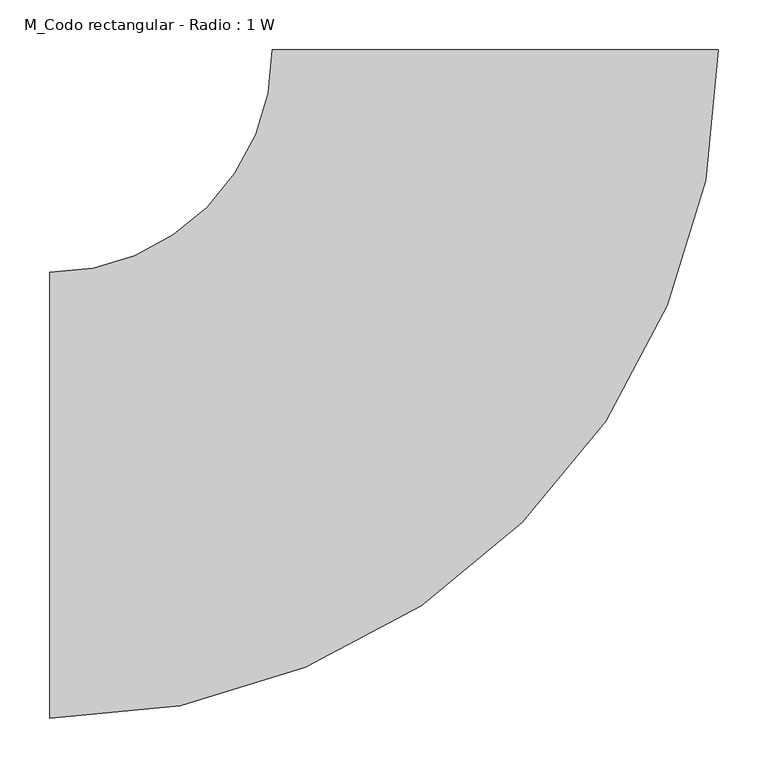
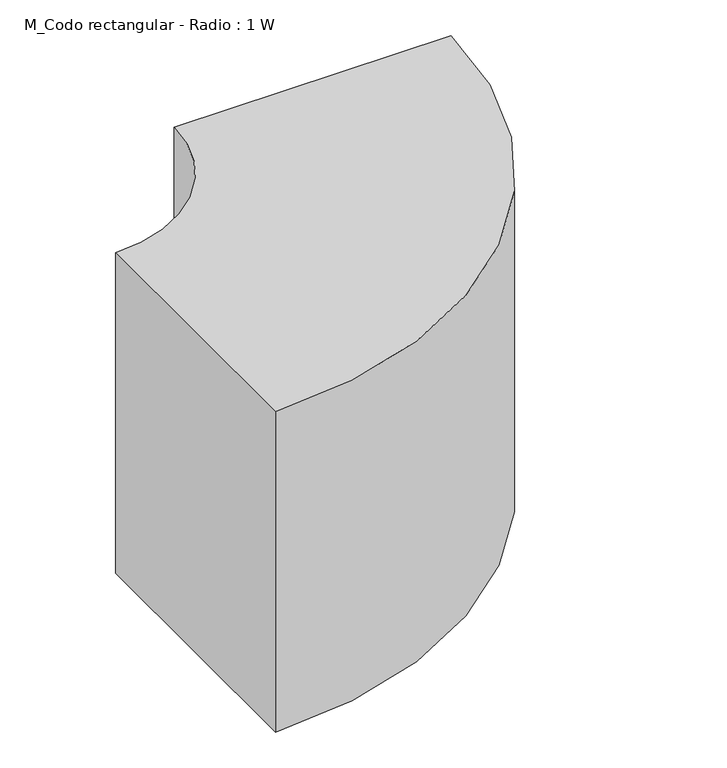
"""IFC4 building model written with IfcOpenShell, lengths in millimetres: duct fitting geometry, M_Codo rectangular - Radio : 1 W."""

import ifcopenshell
import ifcopenshell.guid

model = None  # the IFC model being written
_history = None  # IfcOwnerHistory: only IFC2X3 demands one
_inside = {}  # id of a spatial element -> (the spatial element, [elements in it])
_under = {}  # id of a project, library or spatial element -> (it, [spatial elements below it])
_declared = {}  # id of a project -> (the project, [libraries it declares])
_typed = {}  # id of a type object -> (the type object, [elements of that type])
_made_of = {}  # id of a material, layer set ... -> (it, [elements and type objects made of it])


def new_model(schema):
    """Start an empty IFC model of exactly this schema.

    Asked for "IFC4X3", IfcOpenShell would pick the latest addendum, in which some entities
    have other attributes; the version numbers below select the first issue.
    IFC2X3 requires an IfcOwnerHistory on every rooted entity: one is made here for all.
    """
    global model, _history
    if schema == "IFC4X3":
        model = ifcopenshell.file(schema_version=(4, 3, 0, 0))
    else:
        model = ifcopenshell.file(schema=schema)
    _inside.clear()
    _under.clear()
    _declared.clear()
    _typed.clear()
    _made_of.clear()
    _history = None
    if model.schema == "IFC2X3":
        org = make("IfcOrganization", Name="unknown")
        user = make(
            "IfcPersonAndOrganization",
            ThePerson=make("IfcPerson", FamilyName="unknown"),
            TheOrganization=org,
        )
        app = make(
            "IfcApplication",
            ApplicationDeveloper=org,
            Version="unknown",
            ApplicationFullName="unknown",
            ApplicationIdentifier="unknown",
        )
        _history = make(
            "IfcOwnerHistory",
            OwningUser=user,
            OwningApplication=app,
            ChangeAction="ADDED",
            CreationDate=0,
        )
    return model


def make(cls, **values):
    """One entity of the class cls with the attributes given. An attribute that is None is left unset."""
    return model.create_entity(
        cls, **{name: value for name, value in values.items() if value is not None}
    )


def rooted(cls, **values):
    """An entity with a GlobalId (a new one), such as an element, a storey or a relation."""
    return make(cls, GlobalId=ifcopenshell.guid.new(), OwnerHistory=_history, **values)


def si_unit(unit_type, name, prefix=None):
    """IfcSIUnit, for example si_unit("LENGTHUNIT", "METRE", prefix="MILLI")."""
    return make("IfcSIUnit", UnitType=unit_type, Prefix=prefix, Name=name)


def assignment(units):
    """IfcUnitAssignment: the units of a project."""
    return None if units is None else make("IfcUnitAssignment", Units=units)


def point(xyz):
    """IfcCartesianPoint."""
    return None if xyz is None else make("IfcCartesianPoint", Coordinates=xyz)


def direction(xyz):
    """IfcDirection."""
    return None if xyz is None else make("IfcDirection", DirectionRatios=xyz)


def frame(location, z_axis=None, x_axis=None):
    """IfcAxis2Placement3D, a coordinate frame: its origin and axes. An axis left out is left unset."""
    return make(
        "IfcAxis2Placement3D",
        Location=point(location),
        Axis=direction(z_axis),
        RefDirection=direction(x_axis),
    )


def frame_2d(location, x_axis=None):
    """IfcAxis2Placement2D, a coordinate frame in the plane: its origin and x axis."""
    return make(
        "IfcAxis2Placement2D", Location=point(location), RefDirection=direction(x_axis)
    )


def origin():
    """The frame at (0, 0, 0) with its axes left unset."""
    return frame((0.0, 0.0, 0.0))


def place(relative_to, where):
    """IfcLocalPlacement: puts the frame where relative to a parent placement (None: the world)."""
    return make(
        "IfcLocalPlacement", PlacementRelTo=relative_to, RelativePlacement=where
    )


def context(
    kind, dimensions, precision=None, world=None, true_north=None, identifier=None
):
    """IfcGeometricRepresentationContext, for example the 3D "Model" context."""
    return make(
        "IfcGeometricRepresentationContext",
        ContextIdentifier=identifier,
        ContextType=kind,
        CoordinateSpaceDimension=dimensions,
        Precision=precision,
        WorldCoordinateSystem=world,
        TrueNorth=true_north,
    )


def project(units=None, contexts=None):
    """IfcProject with its units and contexts."""
    return rooted(
        "IfcProject",
        Name="project",
        RepresentationContexts=contexts,
        UnitsInContext=assignment(units),
    )


def spatial(cls, under=None, at=None, **own):
    """A site, building, storey or space (cls), placed at a placement, below another one or the project."""
    s = rooted(cls, ObjectPlacement=at, **own)
    if under is not None:
        _under.setdefault(under.id(), (under, []))[1].append(s)
    return s


def polyline(points):
    """IfcPolyline through the points."""
    return make("IfcPolyline", Points=[point(p) for p in points])


def circle_curve(where, radius):
    """IfcCircle in the frame where."""
    return make("IfcCircle", Position=where, Radius=radius)


def trimmed(basis, trim1, trim2, sense, master):
    """IfcTrimmedCurve: the piece of a basis curve between two trims."""
    return make(
        "IfcTrimmedCurve",
        BasisCurve=basis,
        Trim1=trim1,
        Trim2=trim2,
        SenseAgreement=sense,
        MasterRepresentation=master,
    )


def segment(curve, same_sense, transition):
    """IfcCompositeCurveSegment."""
    return make(
        "IfcCompositeCurveSegment",
        Transition=transition,
        SameSense=same_sense,
        ParentCurve=curve,
    )


def composite_curve(segments, self_intersect=None):
    """IfcCompositeCurve: segments joined end to end."""
    return make("IfcCompositeCurve", Segments=segments, SelfIntersect=self_intersect)


def outline(outer, holes=None, kind="AREA"):
    """IfcArbitraryClosedProfileDef: a profile drawn as a closed curve; with holes, ...WithVoids."""
    if holes is None:
        return make("IfcArbitraryClosedProfileDef", ProfileType=kind, OuterCurve=outer)
    return make(
        "IfcArbitraryProfileDefWithVoids",
        ProfileType=kind,
        OuterCurve=outer,
        InnerCurves=holes,
    )


def extrude(swept, where, along, depth):
    """IfcExtrudedAreaSolid: the profile swept, set in the frame where, extruded along a direction by depth."""
    return make(
        "IfcExtrudedAreaSolid",
        SweptArea=swept,
        Position=where,
        ExtrudedDirection=direction(along),
        Depth=depth,
    )


def shape(context_of_items, identifier, shape_type, items):
    """IfcShapeRepresentation: the items that make up one representation, for example the "Body"."""
    return make(
        "IfcShapeRepresentation",
        ContextOfItems=context_of_items,
        RepresentationIdentifier=identifier,
        RepresentationType=shape_type,
        Items=items,
    )


def source(mapping_origin, context_of_items, identifier, shape_type, items):
    """IfcRepresentationMap: a shape defined once, which mapped items show again and again."""
    return make(
        "IfcRepresentationMap",
        MappingOrigin=mapping_origin,
        MappedRepresentation=shape(context_of_items, identifier, shape_type, items),
    )


def transform(
    local_origin,
    x_axis=None,
    y_axis=None,
    z_axis=None,
    scale=None,
    scale2=None,
    scale3=None,
    uniform=True,
):
    """IfcCartesianTransformationOperator3D, or its non-uniform kind. x_axis, y_axis, z_axis: its Axis1, 2, 3."""
    if uniform:
        return make(
            "IfcCartesianTransformationOperator3D",
            Axis1=direction(x_axis),
            Axis2=direction(y_axis),
            LocalOrigin=point(local_origin),
            Scale=scale,
            Axis3=direction(z_axis),
        )
    return make(
        "IfcCartesianTransformationOperator3DnonUniform",
        Axis1=direction(x_axis),
        Axis2=direction(y_axis),
        LocalOrigin=point(local_origin),
        Scale=scale,
        Axis3=direction(z_axis),
        Scale2=scale2,
        Scale3=scale3,
    )


def mapped(mapping_source, mapping_target):
    """IfcMappedItem: shows the shape of a source again, moved by a transform."""
    return make(
        "IfcMappedItem", MappingSource=mapping_source, MappingTarget=mapping_target
    )


def made_of(thing, what):
    """Note that an element or type object is made of a material, layer set ...; save() writes the relation."""
    if what is not None:
        _made_of.setdefault(what.id(), (what, []))[1].append(thing)
    return thing


def element(
    cls,
    number,
    at=None,
    inside=None,
    cuts=None,
    type_object=None,
    material=None,
    context=None,
    identifier="Body",
    shape_type=None,
    held_by="IfcProductDefinitionShape",
    body=None,
    shapes=None,
    **own,
):
    """One element of the class cls, such as IfcWall. Its Tag is "e" and its number.

    at: its placement. inside: the storey or other place that contains it. cuts: it is an
    opening in that element (IfcRelVoidsElement). A single representation is given by context,
    identifier, shape_type and body (its items); several are given by shapes. held_by: the class
    of the entity that holds the representations. save() writes the other relations.
    """
    e = rooted(cls, Tag="e%d" % number, ObjectPlacement=at, **own)
    if body is not None:
        shapes = [shape(context, identifier, shape_type, body)]
    if shapes is not None:
        e.Representation = make(held_by, Representations=shapes)
    if inside is not None:
        _inside.setdefault(inside.id(), (inside, []))[1].append(e)
    if cuts is not None:
        rooted(
            "IfcRelVoidsElement", RelatingBuildingElement=cuts, RelatedOpeningElement=e
        )
    if type_object is not None:
        _typed.setdefault(type_object.id(), (type_object, []))[1].append(e)
    return made_of(e, material)


def aggregate(whole, parts):
    """IfcRelAggregates: a whole, such as a stair, and the parts it consists of."""
    return rooted("IfcRelAggregates", RelatingObject=whole, RelatedObjects=parts)


def save(model, path):
    """Write the relations noted so far, then the file.

    IfcRelAggregates (storeys below a building ...), IfcRelContainedInSpatialStructure (elements
    in a storey), IfcRelDefinesByType, IfcRelAssociatesMaterial and IfcRelDeclares: one each for
    every whole, place, type object, material and project.
    """
    for whole, parts in _under.values():
        aggregate(whole, parts)
    for where, things in _inside.values():
        rooted(
            "IfcRelContainedInSpatialStructure",
            RelatedElements=things,
            RelatingStructure=where,
        )
    for kind, things in _typed.values():
        rooted("IfcRelDefinesByType", RelatedObjects=things, RelatingType=kind)
    for what, things in _made_of.values():
        rooted("IfcRelAssociatesMaterial", RelatedObjects=things, RelatingMaterial=what)
    for by, libraries in _declared.values():
        rooted("IfcRelDeclares", RelatingContext=by, RelatedDefinitions=libraries)
    model.write(path)


def m_codo_rectangular_radio_1_w_69a41025(model_context):
    return source(origin(), model_context, "Body", "SweptSolid", [
        extrude(outline(composite_curve([segment(trimmed(circle_curve(frame_2d((-450.0, 450.0)), 675.0), [point((225.0, 450.0))], [point((-450.0, -225.0))], False, "CARTESIAN"), True, "CONTINUOUS"), segment(polyline([(-450.0, -225.0), (-450.0, 225.0)]), True, "CONTINUOUS"), segment(trimmed(circle_curve(frame_2d((-450.0, 450.0)), 225.0), [point((-450.0, 225.0))], [point((-225.0, 450.0))], True, "CARTESIAN"), True, "CONTINUOUS"), segment(polyline([(-225.0, 450.0), (225.0, 450.0)]), True, "CONTINUOUS")], self_intersect=False)), frame((0.0, 0.0, -275.0), z_axis=(0.0, 0.0, 1.0), x_axis=(1.0, 0.0, 0.0)), (0.0, 0.0, 1.0), 550.0),
    ])


if __name__ == "__main__":
    model = new_model("IFC4")
    model_context = context("Model", 3, world=origin())
    ifc_project = project(units=[si_unit("LENGTHUNIT", "METRE", prefix="MILLI")], contexts=[model_context])
    site = spatial("IfcSite", under=ifc_project)
    building = spatial("IfcBuilding", under=site)
    placement = place(None, origin())
    m_codo_rectangular_radio_1_w_shape = m_codo_rectangular_radio_1_w_69a41025(model_context)
    element("IfcDuctFitting", 1, ObjectType="M_Codo rectangular - Radio : 1 W", at=placement, inside=building, context=model_context, shape_type="MappedRepresentation", body=[
        mapped(m_codo_rectangular_radio_1_w_shape, transform((0.0, 0.0, 0.0), x_axis=(1.0, 0.0, 0.0), y_axis=(0.0, 1.0, 0.0), z_axis=(0.0, 0.0, 1.0))),
    ])
    save(model, "model.ifc")
